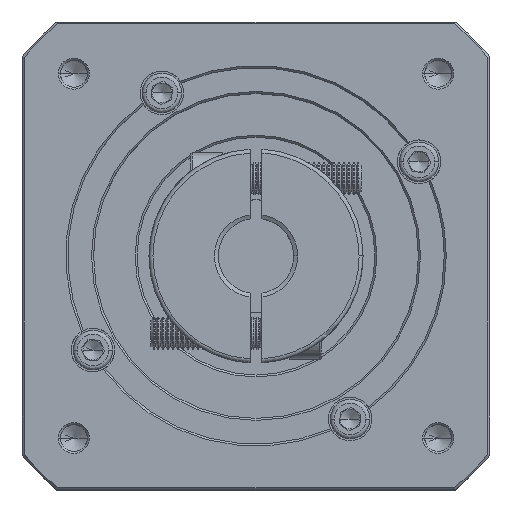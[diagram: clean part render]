
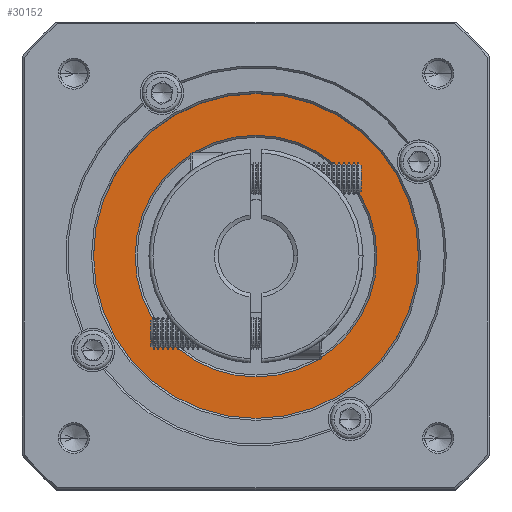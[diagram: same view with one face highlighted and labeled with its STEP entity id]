
A CAD part, top view. The second image highlights one B-rep face of the part: STEP entity #30152.
In plain terms, the highlighted planar face has unit normal (0, 0, 1).
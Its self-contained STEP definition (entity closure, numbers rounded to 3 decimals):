
#67 = CIRCLE ( 'NONE', #111563, 41. ) ;
#2494 = PLANE ( 'NONE',  #49003 ) ;
#3501 = EDGE_CURVE ( 'NONE', #32233, #68745, #67, .T. ) ;
#5637 = CIRCLE ( 'NONE', #46304, 30.5 ) ;
#6817 = CARTESIAN_POINT ( 'NONE',  ( 128.668, -3.573, -16.138 ) ) ;
#7492 = CARTESIAN_POINT ( 'NONE',  ( 128.668, -34.073, -16.138 ) ) ;
#8739 = DIRECTION ( 'NONE',  ( 0., -1., 0. ) ) ;
#8813 = EDGE_LOOP ( 'NONE', ( #109727, #20457 ) ) ;
#9795 = CARTESIAN_POINT ( 'NONE',  ( 128.668, -34.073, -16.138 ) ) ;
#12055 = ORIENTED_EDGE ( 'NONE', *, *, #73010, .T. ) ;
#19648 = DIRECTION ( 'NONE',  ( 0., -1., 0. ) ) ;
#20190 = CIRCLE ( 'NONE', #79437, 30.5 ) ;
#20457 = ORIENTED_EDGE ( 'NONE', *, *, #3501, .T. ) ;
#26056 = DIRECTION ( 'NONE',  ( 1., 0., 0. ) ) ;
#30152 = ADVANCED_FACE ( 'NONE', ( #93393, #127307 ), #2494, .T. ) ;
#32233 = VERTEX_POINT ( 'NONE', #32526 ) ;
#32526 = CARTESIAN_POINT ( 'NONE',  ( 87.668, -34.073, -16.138 ) ) ;
#33243 = DIRECTION ( 'NONE',  ( 1., 0., 0. ) ) ;
#36478 = CARTESIAN_POINT ( 'NONE',  ( 169.668, -34.073, -16.138 ) ) ;
#42224 = DIRECTION ( 'NONE',  ( 0., 0., 1. ) ) ;
#46304 = AXIS2_PLACEMENT_3D ( 'NONE', #7492, #47729, #8739 ) ;
#47368 = VERTEX_POINT ( 'NONE', #6817 ) ;
#47729 = DIRECTION ( 'NONE',  ( 0., 0., -1. ) ) ;
#49003 = AXIS2_PLACEMENT_3D ( 'NONE', #101790, #72114, #122392 ) ;
#65580 = CARTESIAN_POINT ( 'NONE',  ( 128.668, -34.073, -16.138 ) ) ;
#66467 = CARTESIAN_POINT ( 'NONE',  ( 128.668, -64.573, -16.138 ) ) ;
#67502 = CIRCLE ( 'NONE', #76629, 41. ) ;
#68745 = VERTEX_POINT ( 'NONE', #36478 ) ;
#72114 = DIRECTION ( 'NONE',  ( 0., 0., 1. ) ) ;
#72442 = CARTESIAN_POINT ( 'NONE',  ( 128.668, -34.073, -16.138 ) ) ;
#73010 = EDGE_CURVE ( 'NONE', #47368, #116112, #5637, .T. ) ;
#76629 = AXIS2_PLACEMENT_3D ( 'NONE', #72442, #42224, #33243 ) ;
#78536 = DIRECTION ( 'NONE',  ( 0., 0., -1. ) ) ;
#79437 = AXIS2_PLACEMENT_3D ( 'NONE', #9795, #78536, #19648 ) ;
#93393 = FACE_OUTER_BOUND ( 'NONE', #8813, .T. ) ;
#95945 = ORIENTED_EDGE ( 'NONE', *, *, #118381, .T. ) ;
#98208 = EDGE_CURVE ( 'NONE', #68745, #32233, #67502, .T. ) ;
#101790 = CARTESIAN_POINT ( 'NONE',  ( 128.668, -34.073, -16.138 ) ) ;
#107628 = EDGE_LOOP ( 'NONE', ( #95945, #12055 ) ) ;
#109727 = ORIENTED_EDGE ( 'NONE', *, *, #98208, .T. ) ;
#111563 = AXIS2_PLACEMENT_3D ( 'NONE', #65580, #124974, #26056 ) ;
#116112 = VERTEX_POINT ( 'NONE', #66467 ) ;
#118381 = EDGE_CURVE ( 'NONE', #116112, #47368, #20190, .T. ) ;
#122392 = DIRECTION ( 'NONE',  ( 1., 0., 0. ) ) ;
#124974 = DIRECTION ( 'NONE',  ( 0., 0., 1. ) ) ;
#127307 = FACE_BOUND ( 'NONE', #107628, .T. ) ;
